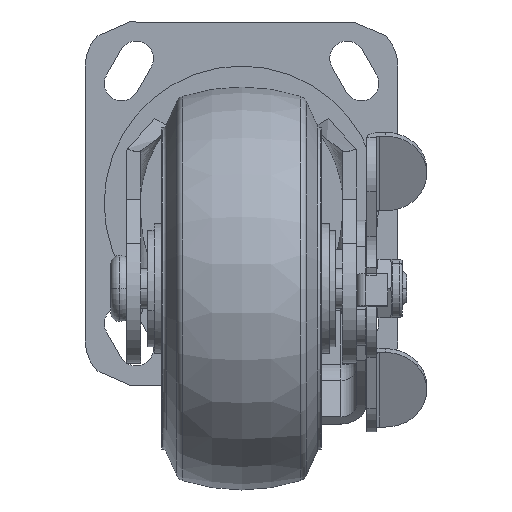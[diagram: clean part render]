
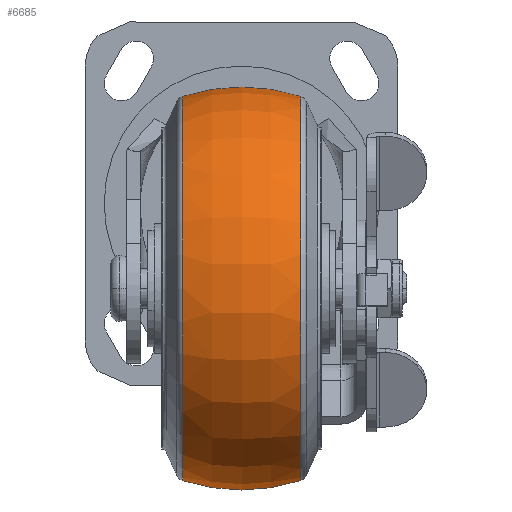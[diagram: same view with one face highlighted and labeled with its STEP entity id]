
A CAD part, front view. The second image highlights one B-rep face of the part: STEP entity #6685.
In plain terms, the highlighted toroidal (fillet/blend) face has major radius 4 mm and minor radius 60 mm.
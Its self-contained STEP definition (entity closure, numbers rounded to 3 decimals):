
#215 = EDGE_LOOP ( 'NONE', ( #7747, #22790, #15449, #20267 ) ) ;
#932 = EDGE_CURVE ( 'NONE', #14366, #2484, #18360, .T. ) ;
#1149 = CARTESIAN_POINT ( 'NONE',  ( -18.742, -103.501, -87.998 ) ) ;
#1382 = DIRECTION ( 'NONE',  ( -1., 0., 0. ) ) ;
#2484 = VERTEX_POINT ( 'NONE', #1149 ) ;
#2524 = AXIS2_PLACEMENT_3D ( 'NONE', #9239, #1382, #3811 ) ;
#3811 = DIRECTION ( 'NONE',  ( 0., 0., 1. ) ) ;
#6685 = ADVANCED_FACE ( 'NONE', ( #24800 ), #12350, .T. ) ;
#6829 = VERTEX_POINT ( 'NONE', #15160 ) ;
#7285 = EDGE_CURVE ( 'NONE', #2484, #6829, #11561, .T. ) ;
#7313 = AXIS2_PLACEMENT_3D ( 'NONE', #8028, #13820, #21638 ) ;
#7747 = ORIENTED_EDGE ( 'NONE', *, *, #932, .F. ) ;
#8028 = CARTESIAN_POINT ( 'NONE',  ( 0., -103.501, -31. ) ) ;
#9239 = CARTESIAN_POINT ( 'NONE',  ( -18.742, -103.501, -27. ) ) ;
#9253 = DIRECTION ( 'NONE',  ( 0., 0., -1. ) ) ;
#11223 = AXIS2_PLACEMENT_3D ( 'NONE', #20677, #20800, #9253 ) ;
#11561 = CIRCLE ( 'NONE', #2524, 60.998 ) ;
#12350 = TOROIDAL_SURFACE ( 'NONE', #19724, 4., 60. ) ;
#12730 = CARTESIAN_POINT ( 'NONE',  ( 18.742, -103.501, -87.998 ) ) ;
#13322 = EDGE_CURVE ( 'NONE', #14366, #23747, #18976, .T. ) ;
#13820 = DIRECTION ( 'NONE',  ( 0., 1., 0. ) ) ;
#14158 = CARTESIAN_POINT ( 'NONE',  ( 18.742, -103.501, -27. ) ) ;
#14366 = VERTEX_POINT ( 'NONE', #12730 ) ;
#15160 = CARTESIAN_POINT ( 'NONE',  ( -18.742, -103.501, 33.998 ) ) ;
#15449 = ORIENTED_EDGE ( 'NONE', *, *, #19514, .T. ) ;
#16950 = DIRECTION ( 'NONE',  ( -1., 0., 0. ) ) ;
#18360 = CIRCLE ( 'NONE', #7313, 60. ) ;
#18367 = CARTESIAN_POINT ( 'NONE',  ( 0., -103.501, -27. ) ) ;
#18976 = CIRCLE ( 'NONE', #21051, 60.998 ) ;
#19514 = EDGE_CURVE ( 'NONE', #23747, #6829, #21058, .T. ) ;
#19724 = AXIS2_PLACEMENT_3D ( 'NONE', #18367, #16950, #20692 ) ;
#20047 = DIRECTION ( 'NONE',  ( -1., 0., 0. ) ) ;
#20267 = ORIENTED_EDGE ( 'NONE', *, *, #7285, .F. ) ;
#20677 = CARTESIAN_POINT ( 'NONE',  ( 0., -103.501, -23. ) ) ;
#20692 = DIRECTION ( 'NONE',  ( 0., 0., 1. ) ) ;
#20800 = DIRECTION ( 'NONE',  ( 0., -1., 0. ) ) ;
#21051 = AXIS2_PLACEMENT_3D ( 'NONE', #14158, #20047, #22373 ) ;
#21058 = CIRCLE ( 'NONE', #11223, 60. ) ;
#21638 = DIRECTION ( 'NONE',  ( 0., 0., 1. ) ) ;
#22373 = DIRECTION ( 'NONE',  ( 0., 0., 1. ) ) ;
#22790 = ORIENTED_EDGE ( 'NONE', *, *, #13322, .T. ) ;
#23747 = VERTEX_POINT ( 'NONE', #24589 ) ;
#24589 = CARTESIAN_POINT ( 'NONE',  ( 18.742, -103.501, 33.998 ) ) ;
#24800 = FACE_OUTER_BOUND ( 'NONE', #215, .T. ) ;
